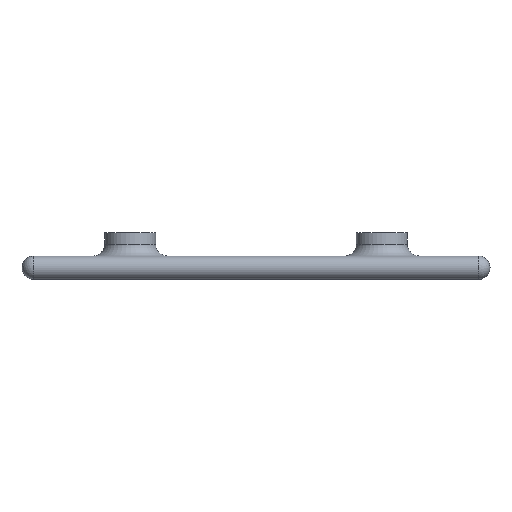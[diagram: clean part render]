
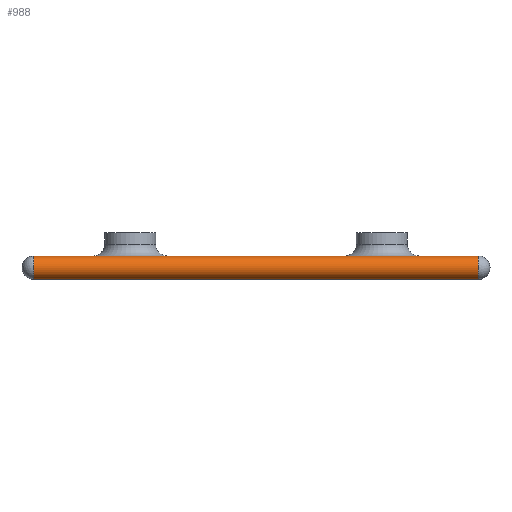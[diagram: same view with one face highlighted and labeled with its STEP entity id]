
A CAD part, front view. The second image highlights one B-rep face of the part: STEP entity #988.
In plain terms, the highlighted cylindrical face has radius 2 mm (diameter 4 mm), a partial arc.
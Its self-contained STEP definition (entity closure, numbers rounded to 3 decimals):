
#39=CYLINDRICAL_SURFACE('',#1080,2.);
#125=CIRCLE('',#1081,2.);
#126=CIRCLE('',#1082,2.);
#210=FACE_OUTER_BOUND('',#285,.T.);
#285=EDGE_LOOP('',(#707,#708,#709,#710));
#365=LINE('',#1583,#403);
#371=LINE('',#1634,#409);
#403=VECTOR('',#1225,10.);
#409=VECTOR('',#1273,10.);
#441=VERTEX_POINT('',#1580);
#442=VERTEX_POINT('',#1582);
#465=VERTEX_POINT('',#1630);
#466=VERTEX_POINT('',#1632);
#535=EDGE_CURVE('',#442,#441,#365,.T.);
#559=EDGE_CURVE('',#465,#442,#125,.T.);
#560=EDGE_CURVE('',#441,#466,#126,.T.);
#561=EDGE_CURVE('',#466,#465,#371,.T.);
#707=ORIENTED_EDGE('',*,*,#559,.T.);
#708=ORIENTED_EDGE('',*,*,#535,.T.);
#709=ORIENTED_EDGE('',*,*,#560,.T.);
#710=ORIENTED_EDGE('',*,*,#561,.T.);
#988=ADVANCED_FACE('',(#210),#39,.T.);
#1080=AXIS2_PLACEMENT_3D('',#1629,#1267,#1268);
#1081=AXIS2_PLACEMENT_3D('',#1631,#1269,#1270);
#1082=AXIS2_PLACEMENT_3D('',#1633,#1271,#1272);
#1225=DIRECTION('',(1.,0.,0.));
#1267=DIRECTION('center_axis',(1.,0.,0.));
#1268=DIRECTION('ref_axis',(0.,-0.707,0.707));
#1269=DIRECTION('center_axis',(1.,0.,0.));
#1270=DIRECTION('ref_axis',(0.,-1.,0.));
#1271=DIRECTION('center_axis',(-1.,0.,0.));
#1272=DIRECTION('ref_axis',(0.,0.,-1.));
#1273=DIRECTION('',(-1.,0.,0.));
#1580=CARTESIAN_POINT('',(38.,-41.5,0.));
#1582=CARTESIAN_POINT('',(-38.,-41.5,0.));
#1583=CARTESIAN_POINT('',(-20.,-41.5,0.));
#1629=CARTESIAN_POINT('Origin',(-20.,-41.5,2.));
#1630=CARTESIAN_POINT('',(-38.,-41.5,4.));
#1631=CARTESIAN_POINT('Origin',(-38.,-41.5,2.));
#1632=CARTESIAN_POINT('',(38.,-41.5,4.));
#1633=CARTESIAN_POINT('Origin',(38.,-41.5,2.));
#1634=CARTESIAN_POINT('',(-20.,-41.5,4.));
